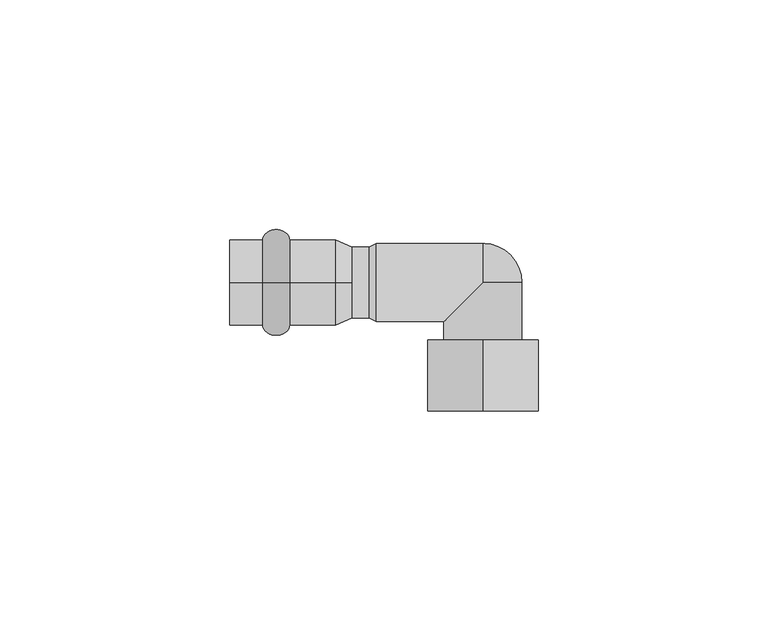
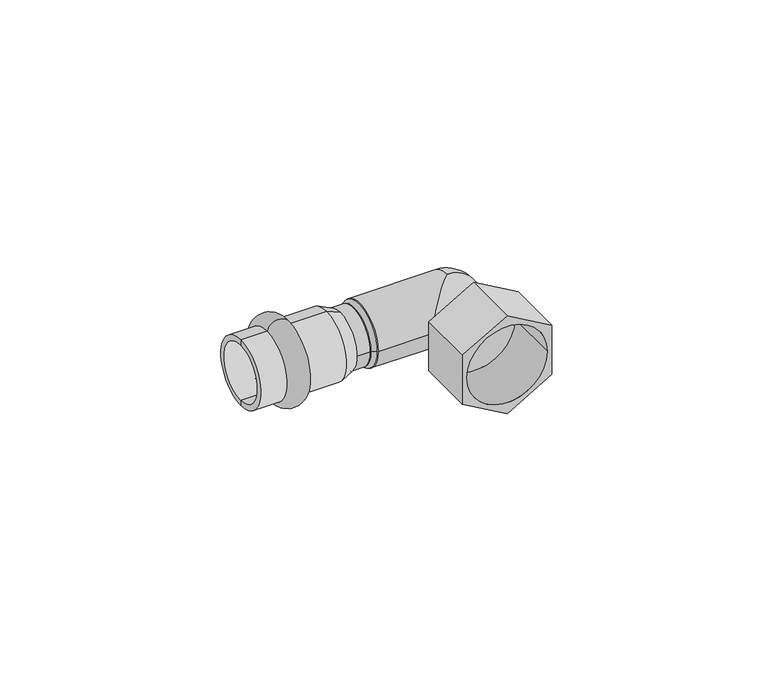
"""IFC4 building model written with IfcOpenShell, lengths in millimetres: pipe fitting geometry."""

from ifc_helpers import new_model, si_unit, point, frame, origin, origin_2d, place, context, project, spatial, polyline, circle_curve, ellipse_curve, trimmed, segment, composite_curve, outline, extrude, source, transform, mapped, element, save
from ifc_brep_helpers import plane_surface, cylinder_surface, revolved_surface, advanced_brep


def pipe_fitting_d2552fca(model_context):
    return source(origin(), model_context, "Body", "SolidModel", [
        advanced_brep(
        [(-15.9, 0.0, 9.25), (-15.9, 0.0, -9.25), (-10.0, 0.0, -9.25), (-10.0, 0.0, 9.25)],
        [
            (0, 1, circle_curve(frame((-15.9, 0.0, 0.0), z_axis=(-1.0, 0.0, 0.0), x_axis=(0.0, 0.0, -1.0)), 9.25)),
            (1, 2),
            (2, 3, circle_curve(frame((-10.0, 0.0, 0.0), z_axis=(1.0, 0.0, 0.0), x_axis=(0.0, 0.0, -1.0)), 9.25)),
            (3, 0),
            (1, 0, circle_curve(frame((-15.9, 0.0, 0.0), z_axis=(-1.0, 0.0, 0.0), x_axis=(0.0, 0.0, -1.0)), 9.25)),
            (3, 2, circle_curve(frame((-10.0, 0.0, 0.0), z_axis=(1.0, 0.0, 0.0), x_axis=(0.0, 0.0, -1.0)), 9.25)),
            (2, 1, ellipse_curve(frame((-12.95, 0.0, -9.25), z_axis=(0.0, 1.0, 0.0), x_axis=(-1.0, 0.0, 0.0)), 2.95, 2.3)),
            (0, 3, ellipse_curve(frame((-12.95, 0.0, 9.25), z_axis=(0.0, 1.0, 0.0), x_axis=(-1.0, 0.0, 0.0)), 2.95, 2.3)),
        ],
        [
            revolved_surface(polyline([(-10.0, 0.0, -9.25), (-15.899999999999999, 0.0, -9.25)]), (3.0, 0.0, 0.0), (1.0, 0.0, 0.0)),
            revolved_surface(trimmed(ellipse_curve(frame((-12.95, 0.0, -9.25), z_axis=(0.0, -1.0, 0.0), x_axis=(-1.0, 0.0, 0.0)), 2.95, 2.3), [point((-15.9, 0.0, -9.25))], [point((-10.0, 0.0, -9.25))], True, "CARTESIAN"), (3.0, 0.0, 0.0), (1.0, 0.0, 0.0)),
        ],
        [
            (0, [[1, 2, 3, 4]]),
            (0, [[5, -4, 6, -2]]),
            (1, [[-3, 7, -1, 8]]),
            (1, [[-6, -8, -5, -7]]),
        ],
    ),
        advanced_brep(
        [(3.5337785, 0.0, 7.75), (3.5337785, 0.0, -7.75), (0.0, 0.0, -9.25), (0.0, 0.0, 9.25), (-23.0, 0.0, 7.75), (-23.0, 0.0, -7.75), (-23.0, 0.0, 9.25), (-23.0, 0.0, -9.25)],
        [
            (0, 1, circle_curve(frame((3.5337785, 0.0, 0.0), z_axis=(-1.0, 0.0, 0.0), x_axis=(0.0, 0.0, -1.0)), 7.75)),
            (1, 2),
            (2, 3, circle_curve(frame((0.0, 0.0, 0.0), z_axis=(1.0, 0.0, 0.0), x_axis=(0.0, 0.0, -1.0)), 9.25)),
            (3, 0),
            (1, 0, circle_curve(frame((3.5337785, 0.0, 0.0), z_axis=(-1.0, 0.0, 0.0), x_axis=(0.0, 0.0, -1.0)), 7.75)),
            (3, 2, circle_curve(frame((0.0, 0.0, 0.0), z_axis=(1.0, 0.0, 0.0), x_axis=(0.0, 0.0, -1.0)), 9.25)),
            (4, 5, circle_curve(frame((-23.0, 0.0, 0.0), z_axis=(-1.0, 0.0, 0.0), x_axis=(0.0, 0.0, -1.0)), 7.75)),
            (5, 1),
            (0, 4),
            (5, 4, circle_curve(frame((-23.0, 0.0, 0.0), z_axis=(-1.0, 0.0, 0.0), x_axis=(0.0, 0.0, -1.0)), 7.75)),
            (6, 7, circle_curve(frame((-23.0, 0.0, 0.0), z_axis=(-1.0, 0.0, 0.0), x_axis=(0.0, 0.0, -1.0)), 9.25)),
            (7, 5),
            (4, 6),
            (7, 6, circle_curve(frame((-23.0, 0.0, 0.0), z_axis=(-1.0, 0.0, 0.0), x_axis=(0.0, 0.0, -1.0)), 9.25)),
            (2, 7),
            (6, 3),
        ],
        [
            revolved_surface(polyline([(0.0, 0.0, -9.25), (3.5337785, 0.0, -7.75)]), (3.0, 0.0, 0.0), (1.0, 0.0, 0.0)),
            revolved_surface(polyline([(3.5337785, 0.0, -7.75), (-23.0, 0.0, -7.75)]), (3.0, 0.0, 0.0), (1.0, 0.0, 0.0)),
            plane_surface(frame((-23.0, 0.0, 0.0), z_axis=(-1.0, 0.0, 0.0), x_axis=(0.0, 0.0, -1.0))),
            cylinder_surface(frame((3.0, 0.0, 0.0), z_axis=(1.0, 0.0, 0.0), x_axis=(0.0, 0.0, -1.0)), 9.25),
        ],
        [
            (0, [[1, 2, 3, 4]]),
            (0, [[5, -4, 6, -2]]),
            (1, [[7, 8, -1, 9]]),
            (1, [[10, -9, -5, -8]]),
            (2, [[11, 12, -7, 13]]),
            (2, [[14, -13, -10, -12]]),
            (3, [[-3, 15, -11, 16]]),
            (3, [[-6, -16, -14, -15]]),
        ],
    ),
        advanced_brep(
        [(8.8, -8.5, 0.0), (8.8, 8.5, 0.0), (32.0, 8.5, 0.0), (32.0, 0.0, -8.5), (23.5, -8.5, 0.0), (32.0, 0.0, 8.5), (40.5, -12.5, 0.0), (23.5, -12.5, 0.0), (40.5, 0.0, 0.0)],
        [
            (0, 1, circle_curve(frame((8.8, 0.0, 0.0), z_axis=(-1.0, 0.0, 0.0), x_axis=(0.0, 1.0, 0.0)), 8.5)),
            (1, 0, circle_curve(frame((8.8, 0.0, 0.0), z_axis=(-1.0, 0.0, 0.0), x_axis=(0.0, 1.0, 0.0)), 8.5)),
            (1, 2),
            (2, 3, circle_curve(frame((32.0, 0.0, 0.0), z_axis=(-1.0, 0.0, 0.0), x_axis=(0.0, 1.0, 0.0)), 8.5)),
            (3, 4, ellipse_curve(frame((32.0, 0.0, 0.0), z_axis=(-0.707106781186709, 0.707106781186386, 0.0), x_axis=(0.707106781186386, 0.707106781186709, 0.0)), 12.0208153, 8.5)),
            (4, 0),
            (4, 5, ellipse_curve(frame((32.0, 0.0, 0.0), z_axis=(-0.707106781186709, 0.707106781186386, 0.0), x_axis=(0.707106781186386, 0.707106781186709, 0.0)), 12.0208153, 8.5)),
            (5, 2, circle_curve(frame((32.0, 0.0, 0.0), z_axis=(-1.0, 0.0, 0.0), x_axis=(0.0, 1.0, 0.0)), 8.5)),
            (6, 7, circle_curve(frame((32.0, -12.5, 0.0), z_axis=(0.0, -1.0, 0.0), x_axis=(0.0, 0.0, 1.0)), 8.5)),
            (7, 6, circle_curve(frame((32.0, -12.5, 0.0), z_axis=(0.0, -1.0, 0.0), x_axis=(0.0, 0.0, -1.0)), 8.5)),
            (7, 4),
            (3, 8, circle_curve(frame((32.0, 0.0, 0.0), z_axis=(0.0, -1.0, 0.0), x_axis=(0.0, 0.0, -1.0)), 8.5)),
            (8, 6),
            (8, 5, circle_curve(frame((32.0, 0.0, 0.0), z_axis=(0.0, -1.0, 0.0), x_axis=(0.0, 0.0, 1.0)), 8.5)),
        ],
        [
            plane_surface(frame((8.8, 8.5, 0.0), z_axis=(-1.0, 0.0, 0.0), x_axis=(0.0, 0.0, -1.0))),
            cylinder_surface(frame((8.8, 0.0, 0.0), z_axis=(1.0, 0.0, 0.0), x_axis=(0.0, 1.0, 0.0)), 8.5),
            plane_surface(frame((32.0, -12.5, 0.0), z_axis=(0.0, -1.0, 0.0), x_axis=(0.0, 0.0, -1.0))),
            cylinder_surface(frame((32.0, 0.0, 0.0), z_axis=(0.0, -1.0, 0.0), x_axis=(0.0, 0.0, -1.0)), 8.5),
            cylinder_surface(frame((32.0, 0.0, 0.0), z_axis=(0.0, -1.0, 0.0), x_axis=(0.0, 0.0, 1.0)), 8.5),
            revolved_surface(trimmed(ellipse_curve(frame((32.0, 0.0, 0.0), z_axis=(0.0, -1.0, 0.0), x_axis=(1.0, 0.0, 0.0)), 8.5, 8.5), [point((32.0, 0.0, -8.5))], [point((32.0, 0.0, 8.5))], True, "CARTESIAN"), (32.0, 0.0, 0.0), (0.0, 0.0, 1.0)),
        ],
        [
            (0, [[1, 2]]),
            (1, [[-2, 3, 4, 5, 6]]),
            (1, [[-1, -6, 7, 8, -3]]),
            (2, [[9, 10]]),
            (3, [[-10, 11, -5, 12, 13]]),
            (4, [[-9, -13, 14, -7, -11]]),
            (5, [[-4, -8, -14, -12]]),
        ],
    ),
        advanced_brep(
        [(44.0, -12.5, -6.9282032), (44.0, -28.0, -6.9282032), (32.0, -28.0, -13.8564065), (32.0, -12.5, -13.8564065), (33.0, -12.5, -0.5773503), (32.0, -12.5, -1.1547005), (32.0, -13.0, -1.1547005), (33.0, -13.0, -0.5773503), (20.0, -28.0, -6.9282032), (20.0, -12.5, -6.9282032), (31.0, -12.5, -0.5773503), (31.0, -13.0, -0.5773503), (20.0, -12.5, 6.9282032), (20.0, -28.0, 6.9282032), (32.0, -28.0, 13.8564065), (32.0, -12.5, 13.8564065), (31.0, -12.5, 0.5773503), (32.0, -12.5, 1.1547005), (32.0, -13.0, 1.1547005), (31.0, -13.0, 0.5773503), (44.0, -28.0, 6.9282032), (44.0, -12.5, 6.9282032), (33.0, -12.5, 0.5773503), (33.0, -13.0, 0.5773503), (42.75, -28.0, 0.0), (21.25, -28.0, 0.0), (42.75, -13.0, 0.0), (21.25, -13.0, 0.0)],
        [
            (0, 1),
            (1, 2),
            (2, 3),
            (3, 0),
            (4, 5),
            (5, 6),
            (6, 7),
            (7, 4),
            (2, 8),
            (8, 9),
            (9, 3),
            (5, 10),
            (10, 11),
            (11, 6),
            (12, 13),
            (13, 14),
            (14, 15),
            (15, 12),
            (16, 17),
            (17, 18),
            (18, 19),
            (19, 16),
            (14, 20),
            (20, 21),
            (21, 15),
            (17, 22),
            (22, 23),
            (23, 18),
            (8, 13),
            (12, 9),
            (10, 16),
            (19, 11),
            (1, 20),
            (24, 25, circle_curve(frame((32.0, -28.0, 0.0), z_axis=(0.0, 1.0, 0.0), x_axis=(-1.0, 0.0, 0.0)), 10.75)),
            (25, 24, circle_curve(frame((32.0, -28.0, 0.0), z_axis=(0.0, 1.0, 0.0), x_axis=(-1.0, 0.0, 0.0)), 10.75)),
            (0, 21),
            (4, 22),
            (7, 23),
            (26, 27, circle_curve(frame((32.0, -13.0, 0.0), z_axis=(0.0, -1.0, 0.0), x_axis=(-1.0, 0.0, 0.0)), 10.75)),
            (27, 26, circle_curve(frame((32.0, -13.0, 0.0), z_axis=(0.0, -1.0, 0.0), x_axis=(-1.0, 0.0, 0.0)), 10.75)),
            (27, 25),
            (24, 26),
        ],
        [
            plane_surface(frame((44.0, -28.0, -6.9282032), z_axis=(0.5000000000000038, 0.0, -0.8660254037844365), x_axis=(-0.8660254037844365, 0.0, -0.5000000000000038))),
            plane_surface(frame((33.0, -12.5, -0.5773503), z_axis=(-0.5000000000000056, 0.0, 0.8660254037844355), x_axis=(-0.8660254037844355, 0.0, -0.5000000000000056))),
            plane_surface(frame((32.0, -28.0, -13.8564065), z_axis=(-0.49999999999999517, 0.0, -0.8660254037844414), x_axis=(-0.8660254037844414, 0.0, 0.49999999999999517))),
            plane_surface(frame((32.0, -12.5, -1.1547005), z_axis=(0.4999999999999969, 0.0, 0.8660254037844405), x_axis=(-0.8660254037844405, 0.0, 0.4999999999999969))),
            plane_surface(frame((20.0, -28.0, 6.9282032), z_axis=(-0.5000000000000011, 0.0, 0.866025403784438), x_axis=(0.866025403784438, 0.0, 0.5000000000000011))),
            plane_surface(frame((31.0, -12.5, 0.5773503), z_axis=(0.5000000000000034, 0.0, -0.8660254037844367), x_axis=(0.8660254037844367, 0.0, 0.5000000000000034))),
            plane_surface(frame((32.0, -28.0, 13.8564065), z_axis=(0.49999999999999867, 0.0, 0.8660254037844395), x_axis=(0.8660254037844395, 0.0, -0.49999999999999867))),
            plane_surface(frame((32.0, -12.5, 1.1547005), z_axis=(-0.4999999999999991, 0.0, -0.8660254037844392), x_axis=(0.8660254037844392, 0.0, -0.4999999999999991))),
            plane_surface(frame((20.0, -28.0, -6.9282032), z_axis=(-1.0, 0.0, 0.0), x_axis=(0.0, 0.0, 1.0))),
            plane_surface(frame((31.0, -12.5, -0.5773503), z_axis=(1.0, 0.0, 0.0), x_axis=(0.0, 0.0, 1.0))),
            plane_surface(frame((33.0, -28.0, 0.5773503), z_axis=(0.0, -1.0, 0.0), x_axis=(0.0, 0.0, -1.0))),
            plane_surface(frame((44.0, -28.0, 6.9282032), z_axis=(1.0, 0.0, 0.0), x_axis=(0.0, 0.0, -1.0))),
            plane_surface(frame((44.0, -12.5, 6.9282032), z_axis=(0.0, 1.0, 0.0), x_axis=(0.0, 0.0, -1.0))),
            plane_surface(frame((33.0, -12.5, 0.5773503), z_axis=(-1.0, 0.0, 0.0), x_axis=(0.0, 0.0, -1.0))),
            plane_surface(frame((21.25, -13.0, 0.0), z_axis=(0.0, -1.0, 0.0), x_axis=(0.0, 0.0, 1.0))),
            revolved_surface(polyline([(21.25, -13.0, 0.0), (21.25, -28.0, 0.0)]), (32.0, -28.0, 0.0), (0.0, 1.0, 0.0)),
        ],
        [
            (0, [[1, 2, 3, 4]]),
            (1, [[5, 6, 7, 8]]),
            (2, [[-3, 9, 10, 11]]),
            (3, [[12, 13, 14, -6]]),
            (4, [[15, 16, 17, 18]]),
            (5, [[19, 20, 21, 22]]),
            (6, [[-17, 23, 24, 25]]),
            (7, [[26, 27, 28, -20]]),
            (8, [[-10, 29, -15, 30]]),
            (9, [[31, -22, 32, -13]]),
            (10, [[-2, 33, -23, -16, -29, -9], [34, 35]]),
            (11, [[-1, 36, -24, -33]]),
            (12, [[-4, -11, -30, -18, -25, -36], [-5, 37, -26, -19, -31, -12]]),
            (13, [[-37, -8, 38, -27]]),
            (14, [[39, 40], [-7, -14, -32, -21, -28, -38]]),
            (15, [[-40, 41, -34, 42]]),
            (15, [[-39, -42, -35, -41]]),
        ],
    ),
        advanced_brep(
        [(8.8, -8.5, 0.0), (8.8, 8.5, 0.0), (7.3, -7.75, 0.0), (7.3, 7.75, 0.0)],
        [
            (0, 1, circle_curve(frame((8.8, 0.0, 0.0), z_axis=(1.0, 0.0, 0.0), x_axis=(0.0, -1.0, 0.0)), 8.5)),
            (1, 0, circle_curve(frame((8.8, 0.0, 0.0), z_axis=(1.0, 0.0, 0.0), x_axis=(0.0, 1.0, 0.0)), 8.5)),
            (2, 3, circle_curve(frame((7.3, 0.0, 0.0), z_axis=(-1.0, 0.0, 0.0), x_axis=(0.0, 1.0, 0.0)), 7.75)),
            (3, 2, circle_curve(frame((7.3, 0.0, 0.0), z_axis=(-1.0, 0.0, 0.0), x_axis=(0.0, -1.0, 0.0)), 7.75)),
            (3, 1),
            (0, 2),
        ],
        [
            plane_surface(frame((8.8, 0.0, 0.0), z_axis=(1.0, 0.0, 0.0), x_axis=(0.0, 0.0, -1.0))),
            plane_surface(frame((7.3, 0.0, 0.0), z_axis=(-1.0, 0.0, 0.0), x_axis=(0.0, 0.0, -1.0))),
            revolved_surface(polyline([(7.300000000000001, 7.75, 0.0), (8.8, 8.5, 0.0)]), (-8.2, 0.0, 0.0), (1.0, 0.0, 0.0)),
            revolved_surface(polyline([(7.300000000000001, -7.75, 0.0), (8.8, -8.5, 0.0)]), (-8.2, 0.0, 0.0), (1.0, 0.0, 0.0)),
        ],
        [
            (0, [[1, 2]]),
            (1, [[3, 4]]),
            (2, [[-4, 5, -1, 6]]),
            (3, [[-3, -6, -2, -5]]),
        ],
    ),
        extrude(outline(composite_curve([segment(trimmed(circle_curve(origin_2d(), 7.75), [point((-7.75, 0.0))], [point((7.75, 0.0))], False, "CARTESIAN"), True, "CONTINUOUS"), segment(trimmed(circle_curve(origin_2d(), 7.75), [point((7.75, 0.0))], [point((-7.75, 0.0))], False, "CARTESIAN"), True, "CONTINUOUS")], self_intersect=False)), frame((0.0, 0.0, 0.0), z_axis=(1.0, 0.0, 0.0), x_axis=(0.0, 1.0, 0.0)), (0.0, 0.0, 1.0), 7.3),
    ])


if __name__ == "__main__":
    model = new_model("IFC4")
    model_context = context("Model", 3, world=origin())
    ifc_project = project(units=[si_unit("LENGTHUNIT", "METRE", prefix="MILLI")], contexts=[model_context])
    site = spatial("IfcSite", under=ifc_project)
    building = spatial("IfcBuilding", under=site)
    placement = place(None, origin())
    pipe_fitting_shape = pipe_fitting_d2552fca(model_context)
    element("IfcPipeFitting", 1, ObjectType="РЕХАУ_Пресс Угольник ВР : 15 x Rp 1/2\"", at=placement, inside=building, context=model_context, shape_type="MappedRepresentation", body=[
        mapped(pipe_fitting_shape, transform((0.0, 0.0, 0.0), x_axis=(1.0, 0.0, 0.0), y_axis=(0.0, 1.0, 0.0), z_axis=(0.0, 0.0, 1.0))),
    ])
    save(model, "model.ifc")
